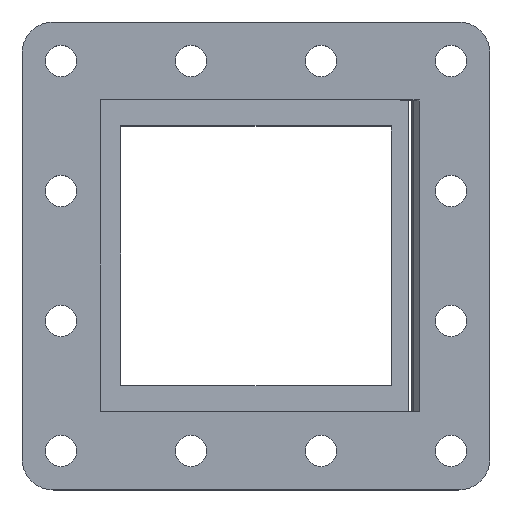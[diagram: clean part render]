
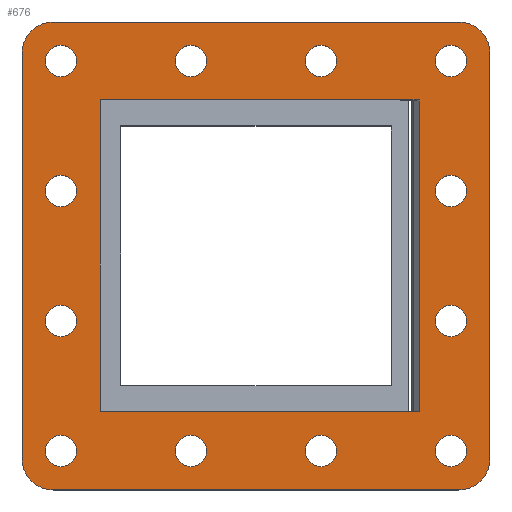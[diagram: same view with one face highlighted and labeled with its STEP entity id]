
A CAD part, top view. The second image highlights one B-rep face of the part: STEP entity #676.
In plain terms, the highlighted planar face has unit normal (0, 0, 1).
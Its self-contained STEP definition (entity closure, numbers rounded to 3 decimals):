
#15=FACE_BOUND('',#134,.T.);
#16=FACE_BOUND('',#135,.T.);
#17=FACE_BOUND('',#136,.T.);
#18=FACE_BOUND('',#137,.T.);
#19=FACE_BOUND('',#138,.T.);
#20=FACE_BOUND('',#139,.T.);
#21=FACE_BOUND('',#140,.T.);
#22=FACE_BOUND('',#141,.T.);
#23=FACE_BOUND('',#142,.T.);
#24=FACE_BOUND('',#143,.T.);
#25=FACE_BOUND('',#144,.T.);
#26=FACE_BOUND('',#145,.T.);
#27=FACE_BOUND('',#146,.T.);
#43=CIRCLE('',#724,6.);
#45=CIRCLE('',#727,6.);
#46=CIRCLE('',#728,6.);
#47=CIRCLE('',#729,6.);
#48=CIRCLE('',#730,3.);
#49=CIRCLE('',#731,3.);
#50=CIRCLE('',#732,3.);
#51=CIRCLE('',#733,3.);
#52=CIRCLE('',#734,3.);
#53=CIRCLE('',#735,3.);
#54=CIRCLE('',#736,3.);
#55=CIRCLE('',#737,3.);
#56=CIRCLE('',#738,3.);
#57=CIRCLE('',#739,3.);
#58=CIRCLE('',#740,3.);
#59=CIRCLE('',#741,3.);
#99=FACE_OUTER_BOUND('',#133,.T.);
#133=EDGE_LOOP('',(#486,#487,#488,#489,#490,#491,#492,#493));
#134=EDGE_LOOP('',(#494,#495,#496,#497,#498,#499));
#135=EDGE_LOOP('',(#500));
#136=EDGE_LOOP('',(#501));
#137=EDGE_LOOP('',(#502));
#138=EDGE_LOOP('',(#503));
#139=EDGE_LOOP('',(#504));
#140=EDGE_LOOP('',(#505));
#141=EDGE_LOOP('',(#506));
#142=EDGE_LOOP('',(#507));
#143=EDGE_LOOP('',(#508));
#144=EDGE_LOOP('',(#509));
#145=EDGE_LOOP('',(#510));
#146=EDGE_LOOP('',(#511));
#204=LINE('',#1021,#264);
#205=LINE('',#1025,#265);
#206=LINE('',#1029,#266);
#207=LINE('',#1032,#267);
#208=LINE('',#1035,#268);
#209=LINE('',#1037,#269);
#210=LINE('',#1039,#270);
#211=LINE('',#1041,#271);
#212=LINE('',#1043,#272);
#213=LINE('',#1044,#273);
#264=VECTOR('',#819,10.);
#265=VECTOR('',#822,10.);
#266=VECTOR('',#825,10.);
#267=VECTOR('',#828,10.);
#268=VECTOR('',#829,10.);
#269=VECTOR('',#830,10.);
#270=VECTOR('',#831,10.);
#271=VECTOR('',#832,10.);
#272=VECTOR('',#833,10.);
#273=VECTOR('',#834,10.);
#318=VERTEX_POINT('',#1011);
#319=VERTEX_POINT('',#1012);
#322=VERTEX_POINT('',#1020);
#323=VERTEX_POINT('',#1022);
#324=VERTEX_POINT('',#1024);
#325=VERTEX_POINT('',#1026);
#326=VERTEX_POINT('',#1028);
#327=VERTEX_POINT('',#1030);
#328=VERTEX_POINT('',#1033);
#329=VERTEX_POINT('',#1034);
#330=VERTEX_POINT('',#1036);
#331=VERTEX_POINT('',#1038);
#332=VERTEX_POINT('',#1040);
#333=VERTEX_POINT('',#1042);
#334=VERTEX_POINT('',#1045);
#335=VERTEX_POINT('',#1047);
#336=VERTEX_POINT('',#1049);
#337=VERTEX_POINT('',#1051);
#338=VERTEX_POINT('',#1053);
#339=VERTEX_POINT('',#1055);
#340=VERTEX_POINT('',#1057);
#341=VERTEX_POINT('',#1059);
#342=VERTEX_POINT('',#1061);
#343=VERTEX_POINT('',#1063);
#344=VERTEX_POINT('',#1065);
#345=VERTEX_POINT('',#1067);
#384=EDGE_CURVE('',#318,#319,#43,.T.);
#388=EDGE_CURVE('',#318,#322,#204,.T.);
#389=EDGE_CURVE('',#323,#322,#45,.T.);
#390=EDGE_CURVE('',#323,#324,#205,.T.);
#391=EDGE_CURVE('',#325,#324,#46,.T.);
#392=EDGE_CURVE('',#325,#326,#206,.T.);
#393=EDGE_CURVE('',#327,#326,#47,.T.);
#394=EDGE_CURVE('',#327,#319,#207,.T.);
#395=EDGE_CURVE('',#328,#329,#208,.T.);
#396=EDGE_CURVE('',#330,#329,#209,.T.);
#397=EDGE_CURVE('',#331,#330,#210,.T.);
#398=EDGE_CURVE('',#332,#331,#211,.T.);
#399=EDGE_CURVE('',#332,#333,#212,.T.);
#400=EDGE_CURVE('',#333,#328,#213,.T.);
#401=EDGE_CURVE('',#334,#334,#48,.T.);
#402=EDGE_CURVE('',#335,#335,#49,.T.);
#403=EDGE_CURVE('',#336,#336,#50,.T.);
#404=EDGE_CURVE('',#337,#337,#51,.T.);
#405=EDGE_CURVE('',#338,#338,#52,.T.);
#406=EDGE_CURVE('',#339,#339,#53,.T.);
#407=EDGE_CURVE('',#340,#340,#54,.T.);
#408=EDGE_CURVE('',#341,#341,#55,.T.);
#409=EDGE_CURVE('',#342,#342,#56,.T.);
#410=EDGE_CURVE('',#343,#343,#57,.T.);
#411=EDGE_CURVE('',#344,#344,#58,.T.);
#412=EDGE_CURVE('',#345,#345,#59,.T.);
#486=ORIENTED_EDGE('',*,*,#384,.F.);
#487=ORIENTED_EDGE('',*,*,#388,.T.);
#488=ORIENTED_EDGE('',*,*,#389,.F.);
#489=ORIENTED_EDGE('',*,*,#390,.T.);
#490=ORIENTED_EDGE('',*,*,#391,.F.);
#491=ORIENTED_EDGE('',*,*,#392,.T.);
#492=ORIENTED_EDGE('',*,*,#393,.F.);
#493=ORIENTED_EDGE('',*,*,#394,.T.);
#494=ORIENTED_EDGE('',*,*,#395,.T.);
#495=ORIENTED_EDGE('',*,*,#396,.F.);
#496=ORIENTED_EDGE('',*,*,#397,.F.);
#497=ORIENTED_EDGE('',*,*,#398,.F.);
#498=ORIENTED_EDGE('',*,*,#399,.T.);
#499=ORIENTED_EDGE('',*,*,#400,.T.);
#500=ORIENTED_EDGE('',*,*,#401,.T.);
#501=ORIENTED_EDGE('',*,*,#402,.T.);
#502=ORIENTED_EDGE('',*,*,#403,.T.);
#503=ORIENTED_EDGE('',*,*,#404,.T.);
#504=ORIENTED_EDGE('',*,*,#405,.T.);
#505=ORIENTED_EDGE('',*,*,#406,.T.);
#506=ORIENTED_EDGE('',*,*,#407,.T.);
#507=ORIENTED_EDGE('',*,*,#408,.T.);
#508=ORIENTED_EDGE('',*,*,#409,.T.);
#509=ORIENTED_EDGE('',*,*,#410,.T.);
#510=ORIENTED_EDGE('',*,*,#411,.T.);
#511=ORIENTED_EDGE('',*,*,#412,.T.);
#658=PLANE('',#726);
#676=ADVANCED_FACE('',(#99,#15,#16,#17,#18,#19,#20,#21,#22,#23,#24,#25,
#26,#27),#658,.T.);
#724=AXIS2_PLACEMENT_3D('',#1013,#811,#812);
#726=AXIS2_PLACEMENT_3D('',#1019,#817,#818);
#727=AXIS2_PLACEMENT_3D('',#1023,#820,#821);
#728=AXIS2_PLACEMENT_3D('',#1027,#823,#824);
#729=AXIS2_PLACEMENT_3D('',#1031,#826,#827);
#730=AXIS2_PLACEMENT_3D('',#1046,#835,#836);
#731=AXIS2_PLACEMENT_3D('',#1048,#837,#838);
#732=AXIS2_PLACEMENT_3D('',#1050,#839,#840);
#733=AXIS2_PLACEMENT_3D('',#1052,#841,#842);
#734=AXIS2_PLACEMENT_3D('',#1054,#843,#844);
#735=AXIS2_PLACEMENT_3D('',#1056,#845,#846);
#736=AXIS2_PLACEMENT_3D('',#1058,#847,#848);
#737=AXIS2_PLACEMENT_3D('',#1060,#849,#850);
#738=AXIS2_PLACEMENT_3D('',#1062,#851,#852);
#739=AXIS2_PLACEMENT_3D('',#1064,#853,#854);
#740=AXIS2_PLACEMENT_3D('',#1066,#855,#856);
#741=AXIS2_PLACEMENT_3D('',#1068,#857,#858);
#811=DIRECTION('center_axis',(0.,0.,-1.));
#812=DIRECTION('ref_axis',(0.707,0.707,0.));
#817=DIRECTION('center_axis',(0.,0.,1.));
#818=DIRECTION('ref_axis',(1.,0.,0.));
#819=DIRECTION('',(-1.,0.,0.));
#820=DIRECTION('center_axis',(0.,0.,-1.));
#821=DIRECTION('ref_axis',(-0.707,0.707,0.));
#822=DIRECTION('',(0.,-1.,0.));
#823=DIRECTION('center_axis',(0.,0.,-1.));
#824=DIRECTION('ref_axis',(-0.707,-0.707,0.));
#825=DIRECTION('',(1.,0.,0.));
#826=DIRECTION('center_axis',(0.,0.,-1.));
#827=DIRECTION('ref_axis',(0.707,-0.707,0.));
#828=DIRECTION('',(0.,1.,0.));
#829=DIRECTION('',(-1.,0.,0.));
#830=DIRECTION('',(1.,0.,0.));
#831=DIRECTION('',(0.,-1.,0.));
#832=DIRECTION('',(-1.,0.,0.));
#833=DIRECTION('',(1.,0.,0.));
#834=DIRECTION('',(0.,-1.,0.));
#835=DIRECTION('center_axis',(0.,0.,-1.));
#836=DIRECTION('ref_axis',(1.,0.,0.));
#837=DIRECTION('center_axis',(0.,0.,-1.));
#838=DIRECTION('ref_axis',(1.,0.,0.));
#839=DIRECTION('center_axis',(0.,0.,-1.));
#840=DIRECTION('ref_axis',(1.,0.,0.));
#841=DIRECTION('center_axis',(0.,0.,-1.));
#842=DIRECTION('ref_axis',(1.,0.,0.));
#843=DIRECTION('center_axis',(0.,0.,-1.));
#844=DIRECTION('ref_axis',(1.,0.,0.));
#845=DIRECTION('center_axis',(0.,0.,-1.));
#846=DIRECTION('ref_axis',(1.,0.,0.));
#847=DIRECTION('center_axis',(0.,0.,-1.));
#848=DIRECTION('ref_axis',(1.,0.,0.));
#849=DIRECTION('center_axis',(0.,0.,-1.));
#850=DIRECTION('ref_axis',(1.,0.,0.));
#851=DIRECTION('center_axis',(0.,0.,-1.));
#852=DIRECTION('ref_axis',(1.,0.,0.));
#853=DIRECTION('center_axis',(0.,0.,-1.));
#854=DIRECTION('ref_axis',(1.,0.,0.));
#855=DIRECTION('center_axis',(0.,0.,-1.));
#856=DIRECTION('ref_axis',(1.,0.,0.));
#857=DIRECTION('center_axis',(0.,0.,-1.));
#858=DIRECTION('ref_axis',(1.,0.,0.));
#1011=CARTESIAN_POINT('',(39.,45.,2.));
#1012=CARTESIAN_POINT('',(45.,39.,2.));
#1013=CARTESIAN_POINT('Origin',(39.,39.,2.));
#1019=CARTESIAN_POINT('Origin',(0.,0.,2.));
#1020=CARTESIAN_POINT('',(-39.,45.,2.));
#1021=CARTESIAN_POINT('',(-45.,45.,2.));
#1022=CARTESIAN_POINT('',(-45.,39.,2.));
#1023=CARTESIAN_POINT('Origin',(-39.,39.,2.));
#1024=CARTESIAN_POINT('',(-45.,-39.,2.));
#1025=CARTESIAN_POINT('',(-45.,-45.,2.));
#1026=CARTESIAN_POINT('',(-39.,-45.,2.));
#1027=CARTESIAN_POINT('Origin',(-39.,-39.,2.));
#1028=CARTESIAN_POINT('',(39.,-45.,2.));
#1029=CARTESIAN_POINT('',(45.,-45.,2.));
#1030=CARTESIAN_POINT('',(45.,-39.,2.));
#1031=CARTESIAN_POINT('Origin',(39.,-39.,2.));
#1032=CARTESIAN_POINT('',(45.,45.,2.));
#1033=CARTESIAN_POINT('',(31.392,-30.,2.));
#1034=CARTESIAN_POINT('',(27.392,-30.,2.));
#1035=CARTESIAN_POINT('',(0.,-30.,2.));
#1036=CARTESIAN_POINT('',(-30.,-30.,2.));
#1037=CARTESIAN_POINT('',(-0.152,-30.,2.));
#1038=CARTESIAN_POINT('',(-30.,30.,2.));
#1039=CARTESIAN_POINT('',(-30.,0.,2.));
#1040=CARTESIAN_POINT('',(27.392,30.,2.));
#1041=CARTESIAN_POINT('',(-0.152,30.,2.));
#1042=CARTESIAN_POINT('',(31.392,30.,2.));
#1043=CARTESIAN_POINT('',(14.696,30.,2.));
#1044=CARTESIAN_POINT('',(31.392,-15.,2.));
#1045=CARTESIAN_POINT('',(34.5,-37.5,2.));
#1046=CARTESIAN_POINT('Origin',(37.5,-37.5,2.));
#1047=CARTESIAN_POINT('',(9.5,37.5,2.));
#1048=CARTESIAN_POINT('Origin',(12.5,37.5,2.));
#1049=CARTESIAN_POINT('',(34.5,-12.5,2.));
#1050=CARTESIAN_POINT('Origin',(37.5,-12.5,2.));
#1051=CARTESIAN_POINT('',(9.5,-37.5,2.));
#1052=CARTESIAN_POINT('Origin',(12.5,-37.5,2.));
#1053=CARTESIAN_POINT('',(-15.5,37.5,2.));
#1054=CARTESIAN_POINT('Origin',(-12.5,37.5,2.));
#1055=CARTESIAN_POINT('',(-40.5,12.5,2.));
#1056=CARTESIAN_POINT('Origin',(-37.5,12.5,2.));
#1057=CARTESIAN_POINT('',(-40.5,-12.5,2.));
#1058=CARTESIAN_POINT('Origin',(-37.5,-12.5,2.));
#1059=CARTESIAN_POINT('',(-40.5,37.5,2.));
#1060=CARTESIAN_POINT('Origin',(-37.5,37.5,2.));
#1061=CARTESIAN_POINT('',(34.5,12.5,2.));
#1062=CARTESIAN_POINT('Origin',(37.5,12.5,2.));
#1063=CARTESIAN_POINT('',(-15.5,-37.5,2.));
#1064=CARTESIAN_POINT('Origin',(-12.5,-37.5,2.));
#1065=CARTESIAN_POINT('',(-40.5,-37.5,2.));
#1066=CARTESIAN_POINT('Origin',(-37.5,-37.5,2.));
#1067=CARTESIAN_POINT('',(34.5,37.5,2.));
#1068=CARTESIAN_POINT('Origin',(37.5,37.5,2.));
